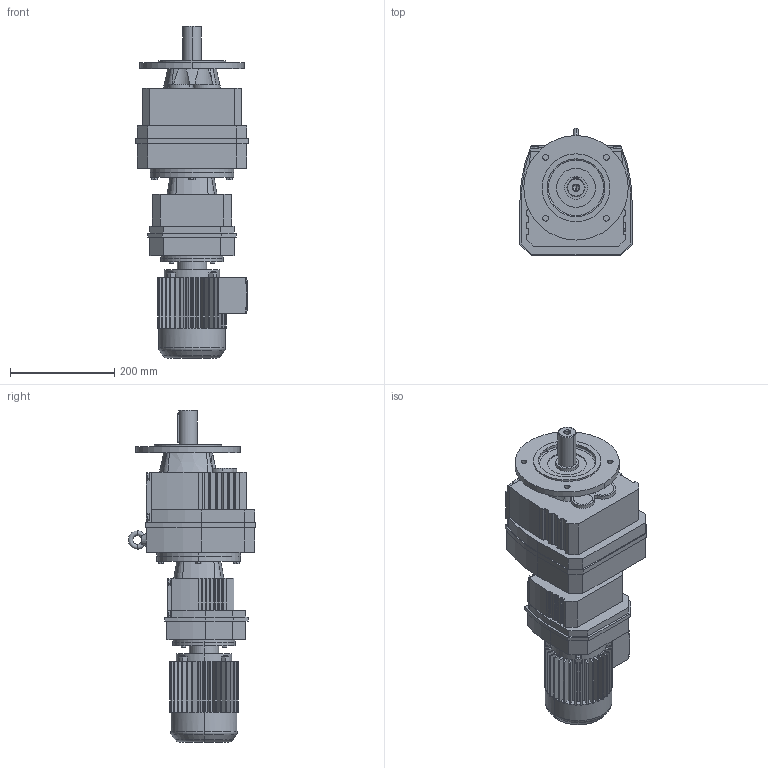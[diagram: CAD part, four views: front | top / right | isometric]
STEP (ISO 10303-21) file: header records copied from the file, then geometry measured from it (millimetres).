
FILE_DESCRIPTION(('Open CASCADE Model'),'2;1');
FILE_NAME('Open CASCADE Shape Model','2021-07-24T14:57:33',('Author'),( 'Open CASCADE'),'Open CASCADE STEP processor 6.3','Open CASCADE 6.3' ,'Unknown');
FILE_SCHEMA(('AUTOMOTIVE_DESIGN_CC2 { 1 2 10303 214 -1 1 5 4 }'));
Length unit declared in the file: millimetre
Products named in the file (4): 1_RF67R37DR63-200; RF37‵167_RF67R37_200.step; 萇儂_120-DR63-191-246-132-105.step; R_67_37.step
Assembly tree (3 placements, depth 2):
  1_RF67R37DR63-200
    RF37‵167_RF67R37_200.step
    萇儂_120-DR63-191-246-132-105.step
    R_67_37.step
Bounding box: 215 x 244.5 x 636 mm (x, y, z)
Volume: 11964518.9 mm3; surface area: 660518.4 mm2
Topology: 3 solids, 3 shells, 964 faces, 2559 edges, 1666 vertices
Faces by surface type: plane 702, cylinder 222, cone 28, torus 12
Entity records: 66683 total; most frequent: CARTESIAN_POINT 17301, DIRECTION 8697, ORIENTED_EDGE 5114, LINE 5114, VECTOR 5114, PCURVE 5114, DEFINITIONAL_REPRESENTATION 5114, EDGE_CURVE 2557
